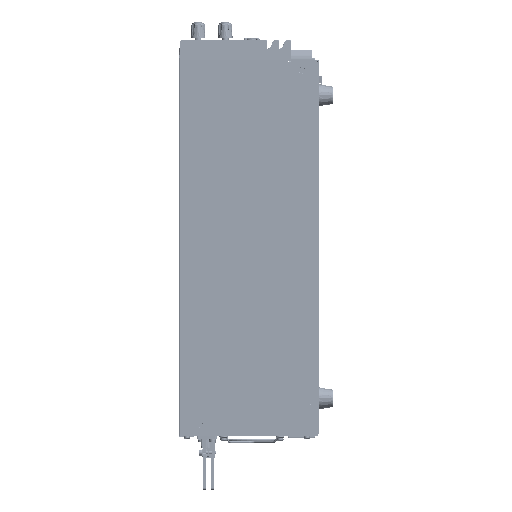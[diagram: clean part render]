
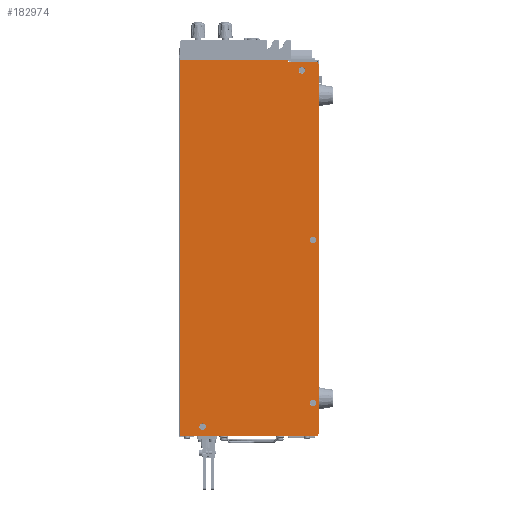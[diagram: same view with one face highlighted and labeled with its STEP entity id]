
A CAD part, left-side view. The second image highlights one B-rep face of the part: STEP entity #182974.
In plain terms, the highlighted planar face has unit normal (-1, 0, 0).
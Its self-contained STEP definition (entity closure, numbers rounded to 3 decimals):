
#181646=CARTESIAN_POINT('',(-35.2,2.5,-3.3));
#181647=DIRECTION('',(1.,0.,0.));
#181648=DIRECTION('',(0.,0.,1.));
#181649=AXIS2_PLACEMENT_3D('',#181646,#181647,#181648);
#181651=CARTESIAN_POINT('',(-35.2,2.5,-330.5));
#181652=DIRECTION('',(1.,0.,0.));
#181653=DIRECTION('',(0.,-1.,0.));
#181654=AXIS2_PLACEMENT_3D('',#181651,#181652,#181653);
#181656=DIRECTION('',(0.,1.,0.));
#181657=VECTOR('',#181656,120.5);
#181658=CARTESIAN_POINT('',(-35.2,2.5,-332.5));
#181659=LINE('',#181658,#181657);
#181660=DIRECTION('',(0.,-1.,0.));
#181661=VECTOR('',#181660,25.1);
#181662=CARTESIAN_POINT('',(-35.2,27.6,-1.3));
#181663=LINE('',#181662,#181661);
#181664=CARTESIAN_POINT('',(-35.2,103.,-324.));
#181665=DIRECTION('',(-1.,0.,0.));
#181666=DIRECTION('',(0.,1.,0.));
#181667=AXIS2_PLACEMENT_3D('',#181664,#181665,#181666);
#181669=CARTESIAN_POINT('',(-35.2,103.,-324.));
#181670=DIRECTION('',(-1.,0.,0.));
#181671=DIRECTION('',(0.,-1.,0.));
#181672=AXIS2_PLACEMENT_3D('',#181669,#181670,#181671);
#181674=CARTESIAN_POINT('',(-35.2,5.2,-303.));
#181675=DIRECTION('',(-1.,0.,0.));
#181676=DIRECTION('',(0.,1.,0.));
#181677=AXIS2_PLACEMENT_3D('',#181674,#181675,#181676);
#181679=CARTESIAN_POINT('',(-35.2,5.2,-303.));
#181680=DIRECTION('',(-1.,0.,0.));
#181681=DIRECTION('',(0.,-1.,0.));
#181682=AXIS2_PLACEMENT_3D('',#181679,#181680,#181681);
#181684=CARTESIAN_POINT('',(-35.2,15.2,-9.));
#181685=DIRECTION('',(-1.,0.,0.));
#181686=DIRECTION('',(0.,1.,0.));
#181687=AXIS2_PLACEMENT_3D('',#181684,#181685,#181686);
#181689=CARTESIAN_POINT('',(-35.2,15.2,-9.));
#181690=DIRECTION('',(-1.,0.,0.));
#181691=DIRECTION('',(0.,-1.,0.));
#181692=AXIS2_PLACEMENT_3D('',#181689,#181690,#181691);
#181694=CARTESIAN_POINT('',(-35.2,5.2,-159.));
#181695=DIRECTION('',(-1.,0.,0.));
#181696=DIRECTION('',(0.,1.,0.));
#181697=AXIS2_PLACEMENT_3D('',#181694,#181695,#181696);
#181699=CARTESIAN_POINT('',(-35.2,5.2,-159.));
#181700=DIRECTION('',(-1.,0.,0.));
#181701=DIRECTION('',(0.,-1.,0.));
#181702=AXIS2_PLACEMENT_3D('',#181699,#181700,#181701);
#181716=DIRECTION('',(0.,0.,1.));
#181717=VECTOR('',#181716,1.3);
#181718=CARTESIAN_POINT('',(-35.2,27.6,-1.3));
#181719=LINE('',#181718,#181717);
#181728=DIRECTION('',(0.,1.,0.));
#181729=VECTOR('',#181728,95.4);
#181730=CARTESIAN_POINT('',(-35.2,27.6,0.));
#181731=LINE('',#181730,#181729);
#181741=DIRECTION('',(0.,0.,-1.));
#181742=VECTOR('',#181741,332.5);
#181743=CARTESIAN_POINT('',(-35.2,123.,0.));
#181744=LINE('',#181743,#181742);
#182602=DIRECTION('',(0.,0.,1.));
#182603=VECTOR('',#182602,327.2);
#182604=CARTESIAN_POINT('',(-35.2,0.5,-330.5));
#182605=LINE('',#182604,#182603);
#182646=CARTESIAN_POINT('',(-35.2,2.5,-1.3));
#182647=CARTESIAN_POINT('',(-35.2,0.5,-3.3));
#182648=VERTEX_POINT('',#182646);
#182649=VERTEX_POINT('',#182647);
#182650=CARTESIAN_POINT('',(-35.2,0.5,-330.5));
#182651=VERTEX_POINT('',#182650);
#182652=CARTESIAN_POINT('',(-35.2,2.5,-332.5));
#182653=VERTEX_POINT('',#182652);
#182654=CARTESIAN_POINT('',(-35.2,123.,-332.5));
#182655=VERTEX_POINT('',#182654);
#182656=CARTESIAN_POINT('',(-35.2,123.,0.));
#182657=VERTEX_POINT('',#182656);
#182658=CARTESIAN_POINT('',(-35.2,27.6,0.));
#182659=VERTEX_POINT('',#182658);
#182660=CARTESIAN_POINT('',(-35.2,27.6,-1.3));
#182661=VERTEX_POINT('',#182660);
#182662=CARTESIAN_POINT('',(-35.2,105.893,-324.));
#182663=CARTESIAN_POINT('',(-35.2,100.107,-324.));
#182664=VERTEX_POINT('',#182662);
#182665=VERTEX_POINT('',#182663);
#182666=CARTESIAN_POINT('',(-35.2,8.093,-303.));
#182667=CARTESIAN_POINT('',(-35.2,2.307,-303.));
#182668=VERTEX_POINT('',#182666);
#182669=VERTEX_POINT('',#182667);
#182670=CARTESIAN_POINT('',(-35.2,18.093,-9.));
#182671=CARTESIAN_POINT('',(-35.2,12.307,-9.));
#182672=VERTEX_POINT('',#182670);
#182673=VERTEX_POINT('',#182671);
#182674=CARTESIAN_POINT('',(-35.2,8.093,-159.));
#182675=CARTESIAN_POINT('',(-35.2,2.307,-159.));
#182676=VERTEX_POINT('',#182674);
#182677=VERTEX_POINT('',#182675);
#182927=CARTESIAN_POINT('',(-35.2,123.,0.));
#182928=DIRECTION('',(-1.,0.,0.));
#182929=DIRECTION('',(0.,-1.,0.));
#182930=AXIS2_PLACEMENT_3D('',#182927,#182928,#182929);
#182931=PLANE('',#182930);
#182933=ORIENTED_EDGE('',*,*,#182932,.T.);
#182935=ORIENTED_EDGE('',*,*,#182934,.F.);
#182937=ORIENTED_EDGE('',*,*,#182936,.T.);
#182939=ORIENTED_EDGE('',*,*,#182938,.T.);
#182941=ORIENTED_EDGE('',*,*,#182940,.F.);
#182943=ORIENTED_EDGE('',*,*,#182942,.F.);
#182945=ORIENTED_EDGE('',*,*,#182944,.F.);
#182947=ORIENTED_EDGE('',*,*,#182946,.T.);
#182948=EDGE_LOOP('',(#182933,#182935,#182937,#182939,#182941,#182943,#182945,
#182947));
#182949=FACE_OUTER_BOUND('',#182948,.F.);
#182951=ORIENTED_EDGE('',*,*,#182950,.T.);
#182953=ORIENTED_EDGE('',*,*,#182952,.T.);
#182954=EDGE_LOOP('',(#182951,#182953));
#182955=FACE_BOUND('',#182954,.F.);
#182957=ORIENTED_EDGE('',*,*,#182956,.T.);
#182959=ORIENTED_EDGE('',*,*,#182958,.T.);
#182960=EDGE_LOOP('',(#182957,#182959));
#182961=FACE_BOUND('',#182960,.F.);
#182963=ORIENTED_EDGE('',*,*,#182962,.T.);
#182965=ORIENTED_EDGE('',*,*,#182964,.T.);
#182966=EDGE_LOOP('',(#182963,#182965));
#182967=FACE_BOUND('',#182966,.F.);
#182969=ORIENTED_EDGE('',*,*,#182968,.T.);
#182971=ORIENTED_EDGE('',*,*,#182970,.T.);
#182972=EDGE_LOOP('',(#182969,#182971));
#182973=FACE_BOUND('',#182972,.F.);
#182974=ADVANCED_FACE('',(#182949,#182955,#182961,#182967,#182973),#182931,.T.);
#181650=CIRCLE('',#181649,2.);
#181655=CIRCLE('',#181654,2.);
#181668=CIRCLE('',#181667,2.893);
#181673=CIRCLE('',#181672,2.893);
#181678=CIRCLE('',#181677,2.893);
#181683=CIRCLE('',#181682,2.893);
#181688=CIRCLE('',#181687,2.893);
#181693=CIRCLE('',#181692,2.893);
#181698=CIRCLE('',#181697,2.893);
#181703=CIRCLE('',#181702,2.893);
#182932=EDGE_CURVE('',#182648,#182649,#181650,.T.);
#182934=EDGE_CURVE('',#182651,#182649,#182605,.T.);
#182936=EDGE_CURVE('',#182651,#182653,#181655,.T.);
#182938=EDGE_CURVE('',#182653,#182655,#181659,.T.);
#182940=EDGE_CURVE('',#182657,#182655,#181744,.T.);
#182942=EDGE_CURVE('',#182659,#182657,#181731,.T.);
#182944=EDGE_CURVE('',#182661,#182659,#181719,.T.);
#182946=EDGE_CURVE('',#182661,#182648,#181663,.T.);
#182950=EDGE_CURVE('',#182664,#182665,#181668,.T.);
#182952=EDGE_CURVE('',#182665,#182664,#181673,.T.);
#182956=EDGE_CURVE('',#182668,#182669,#181678,.T.);
#182958=EDGE_CURVE('',#182669,#182668,#181683,.T.);
#182962=EDGE_CURVE('',#182672,#182673,#181688,.T.);
#182964=EDGE_CURVE('',#182673,#182672,#181693,.T.);
#182968=EDGE_CURVE('',#182676,#182677,#181698,.T.);
#182970=EDGE_CURVE('',#182677,#182676,#181703,.T.);
